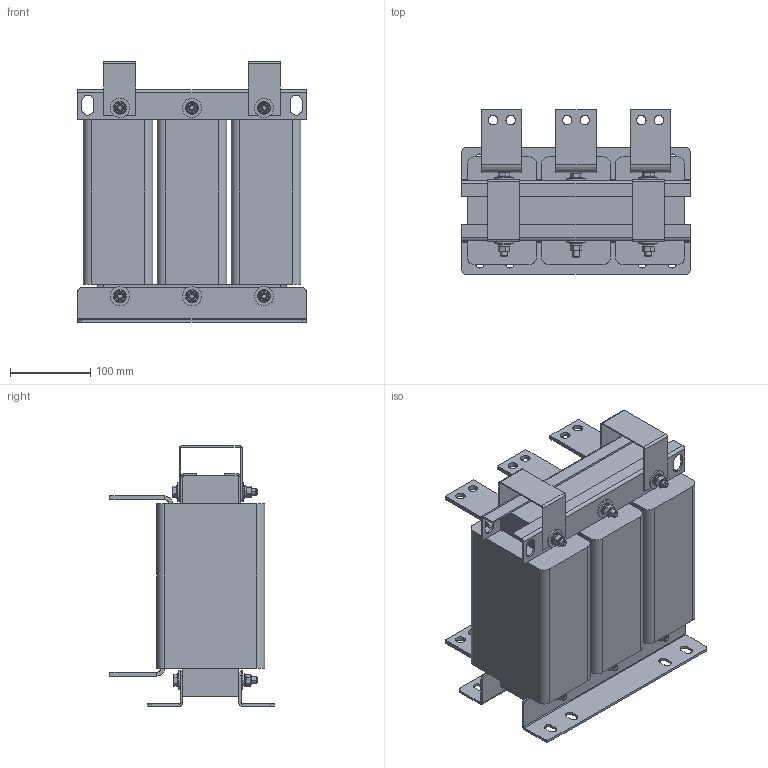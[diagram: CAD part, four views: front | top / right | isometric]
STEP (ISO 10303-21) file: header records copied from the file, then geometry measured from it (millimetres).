
FILE_DESCRIPTION (( 'STEP AP203' ), '1' );
FILE_NAME ('Ñåòåâîé äðîññåëü _ ISF-280_543-4.STEP', '2025-07-14T13:47:02', ( '' ), ( '' ), 'SwSTEP 2.0', 'SolidWorks 2021', '' );
FILE_SCHEMA (( 'CONFIG_CONTROL_DESIGN' ));
Length unit declared in the file: millimetre
Products named in the file (14): Êëåììà íèæíÿÿ; Áîëò DIN 933_Œ8å100; Óãîëîê ïðèæèìíîé; 咈櫡_250; Êëåììà âåðõíÿÿ; Øàéáà ïëîñêàÿ DIN 125 (A)_Œ8; 栫謱毿膻獥250; Øàéáà ïðóæèííàÿ DIN 127 (A)_Œ8; 忺覷齆趌250; Ãàéêà DIN 934_Œ8; Ñåòåâîé äðîññåëü _ ISF-280_543-4; Øàéáà ïëîñêàÿ DIN 9021_Œ8; Êàòóøêà ñ êëåììàìè_250; Ñêîáà òàêåëàæíàÿ_250
Assembly tree (55 placements, depth 3):
  Ñåòåâîé äðîññåëü _ ISF-280_543-4
    栫謱毿膻獥250
    咈櫡_250  x2
    Êàòóøêà ñ êëåììàìè_250  x3
      忺覷齆趌250
      Êëåììà íèæíÿÿ
      Êëåììà âåðõíÿÿ
    Óãîëîê ïðèæèìíîé  x2
    Ñêîáà òàêåëàæíàÿ_250  x2
    Áîëò DIN 933_Œ8å100  x6
    Øàéáà ïëîñêàÿ DIN 125 (A)_Œ8  x12
    Øàéáà ïëîñêàÿ DIN 9021_Œ8  x12
    Øàéáà ïðóæèííàÿ DIN 127 (A)_Œ8  x6
    Ãàéêà DIN 934_Œ8  x6
Bounding box: 285 x 205 x 325 mm (x, y, z)
Volume: 8617582.3 mm3; surface area: 967965.6 mm2
Topology: 58 solids, 58 shells, 928 faces, 2096 edges, 1302 vertices
Faces by surface type: plane 434, cylinder 290, cone 192, torus 12
Entity records: 10392 total; most frequent: CARTESIAN_POINT 1535, DIRECTION 1391, ORIENTED_EDGE 1204, EDGE_CURVE 602, AXIS2_PLACEMENT_3D 513, VERTEX_POINT 377, VECTOR 365, LINE 365
